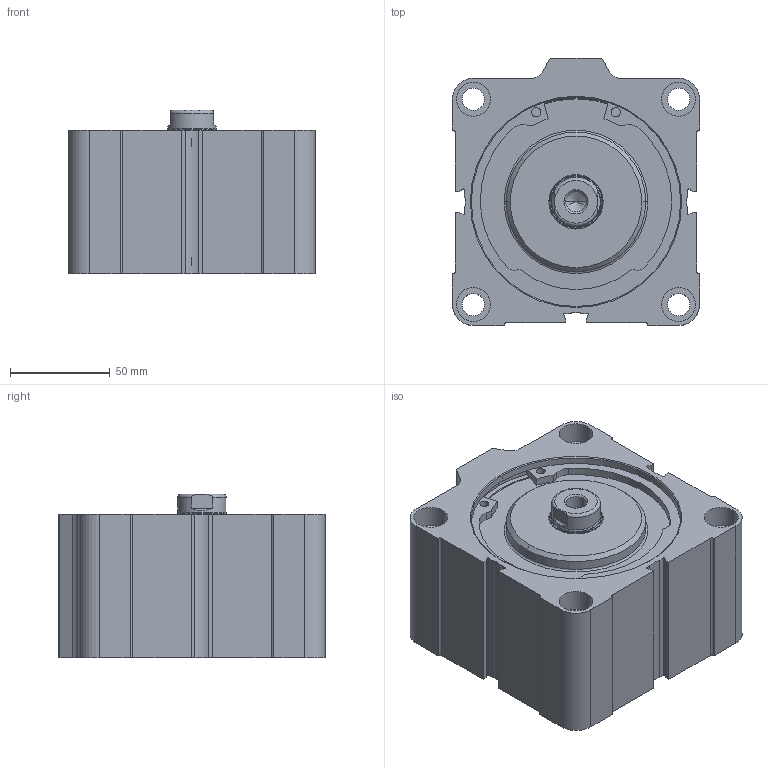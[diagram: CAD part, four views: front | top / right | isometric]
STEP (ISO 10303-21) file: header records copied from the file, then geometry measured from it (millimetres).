
FILE_DESCRIPTION (( 'STEP AP214' ), '1' );
FILE_NAME ('D11M21000005.STEP', '2021-11-09T11:49:03', ( '' ), ( '' ), 'SwSTEP 2.0', 'SolidWorks 2016', '' );
FILE_SCHEMA (( 'AUTOMOTIVE_DESIGN' ));
Length unit declared in the file: millimetre
Products named in the file (6): D11M21000005; TA Ø100 Corsa Breve WEB; TP Ø100 Corsa Breve WEB; 000.508.7_22.100.005; 22.J01.000_22.J01.005; Pistone Ø100 corsa breve WEB
Assembly tree (5 placements, depth 2):
  D11M21000005
    000.508.7_22.100.005
    22.J01.000_22.J01.005
    TA Ø100 Corsa Breve WEB
    TP Ø100 Corsa Breve WEB
    Pistone Ø100 corsa breve WEB
Bounding box: 124 x 134 x 82 mm (x, y, z)
Volume: 919943.8 mm3; surface area: 185698 mm2
Topology: 8 solids, 8 shells, 344 faces, 812 edges, 507 vertices
Faces by surface type: cylinder 149, plane 99, cone 74, torus 22
Entity records: 12120 total; most frequent: DIRECTION 1910, CARTESIAN_POINT 1857, ORIENTED_EDGE 1620, EDGE_CURVE 810, AXIS2_PLACEMENT_3D 760, VERTEX_POINT 507, CIRCLE 408, EDGE_LOOP 397
